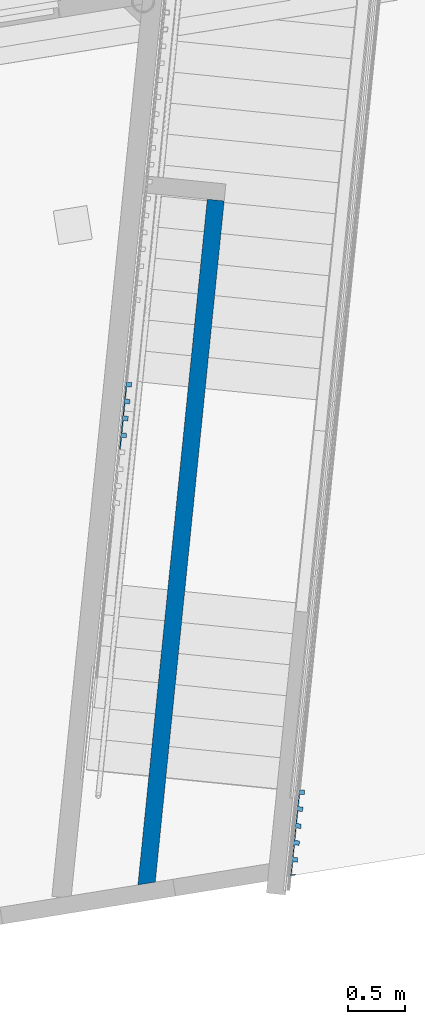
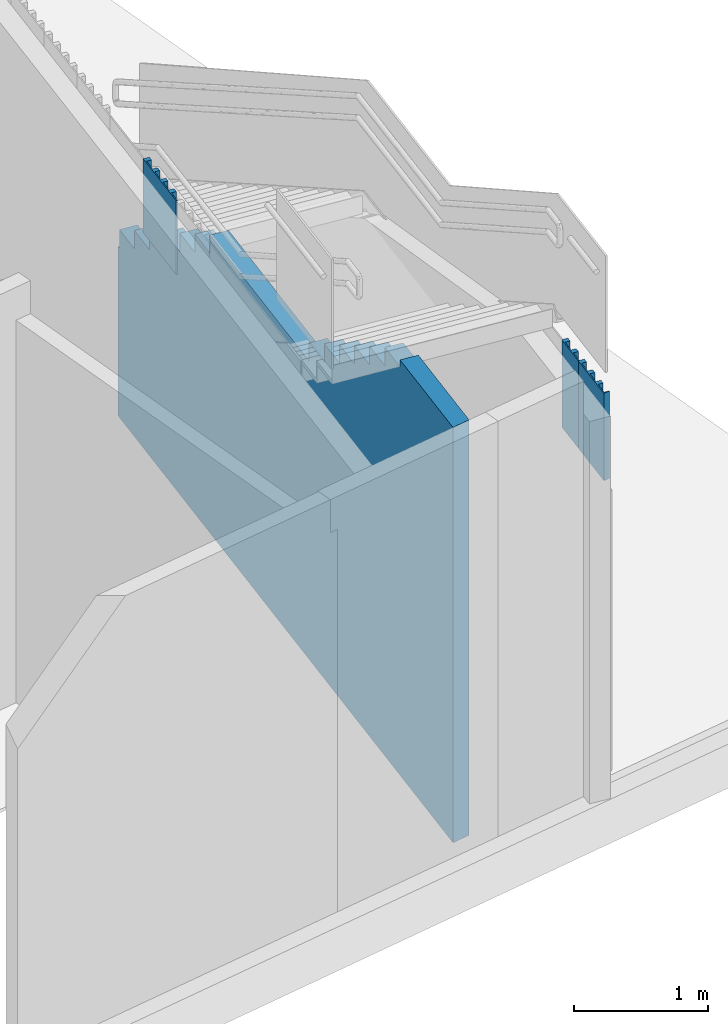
# One storey, part 18 of 23: 3 plates, 1 wall, 2 elements without a shape of their own.
"""IFC2X3 building model written with IfcOpenShell, lengths in millimetres."""

from ifc_helpers import new_model, entity, si_unit, converted_unit, derived_unit, direction, frame, origin, origin_with_axes, place, context, subcontext, project, spatial, faceted_brep, material, layer, layer_set, type_object, element, aggregate, save


model = new_model("IFC2X3")

# Units and contexts
plan_context = context("Plan", 3, precision=1e-05, world=origin_with_axes())
model_context = context("Model", 3, precision=0.01, world=origin(), true_north=direction((6.12323399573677e-17, 1.0)))
body_context = subcontext(model_context, "Body", "Model", "MODEL_VIEW")
ifc_project = project(units=[converted_unit("PLANEANGLEUNIT", "DEGREE", entity("IfcPositiveLengthMeasure", 0.0174532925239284), si_unit("PLANEANGLEUNIT", "RADIAN"), dimensions=[0, 0, 0, 0, 0, 0, 0]), si_unit("AREAUNIT", "SQUARE_METRE"), si_unit("LENGTHUNIT", "METRE", prefix="MILLI"), si_unit("MASSUNIT", "GRAM", prefix="KILO"), si_unit("POWERUNIT", "WATT"), si_unit("PRESSUREUNIT", "PASCAL", prefix="KILO"), si_unit("FORCEUNIT", "NEWTON", prefix="KILO"), si_unit("ELECTRICVOLTAGEUNIT", "VOLT"), si_unit("ELECTRICCURRENTUNIT", "AMPERE"), si_unit("THERMODYNAMICTEMPERATUREUNIT", "DEGREE_CELSIUS"), si_unit("TIMEUNIT", "SECOND"), si_unit("VOLUMEUNIT", "CUBIC_METRE"), derived_unit("LINEARVELOCITYUNIT", [(si_unit("LENGTHUNIT", "METRE"), 1), (si_unit("TIMEUNIT", "SECOND"), -1)]), derived_unit("VOLUMETRICFLOWRATEUNIT", [(si_unit("VOLUMEUNIT", "CUBIC_METRE"), 1), (si_unit("TIMEUNIT", "SECOND"), -1)]), derived_unit("THERMALTRANSMITTANCEUNIT", [(si_unit("POWERUNIT", "WATT"), 1), (si_unit("THERMODYNAMICTEMPERATUREUNIT", "KELVIN"), -1), (si_unit("AREAUNIT", "SQUARE_METRE"), -1)]), derived_unit("SOUNDPRESSUREUNIT", [(si_unit("PRESSUREUNIT", "PASCAL"), 1)])], contexts=[model_context, plan_context])

# Site, building, storey
site_placement = place(None, frame((-0.00071070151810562, 0.00438415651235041, 0.0), z_axis=(0.0, 0.0, 1.0), x_axis=(-0.160236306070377, 0.987078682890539, 0.0)))
site = spatial("IfcSite", under=ifc_project, at=site_placement, Name="Default", CompositionType="ELEMENT")
building_placement = place(site_placement, origin_with_axes())
building = spatial("IfcBuilding", under=site, at=building_placement, Name="TOO", CompositionType="ELEMENT")
storey_placement = place(building_placement, frame((0.0, 0.0, 58999.9999999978), z_axis=(0.0, 0.0, 1.0), x_axis=(1.0, 0.0, 0.0)))
storey = spatial("IfcBuildingStorey", under=building, at=storey_placement, Name="Nivå F", CompositionType="ELEMENT", Elevation=58999.9999999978)

# Curtain wall, plate
curtain_wall_type = type_object("IfcCurtainWallType", Name="Curtain Wall:Curtain Wall Standard (Bruk kun denne)", PredefinedType="NOTDEFINED")
curtain_wall_1_placement = place(storey_placement, frame((0.0, 0.0, -58999.9999999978), z_axis=(0.0, 0.0, 1.0), x_axis=(1.0, 0.0, 0.0)))
curtain_wall_1 = element("IfcCurtainWall", 1, at=curtain_wall_1_placement, inside=storey, type_object=curtain_wall_type, Name="Curtain Wall:Curtain Wall Standard (Bruk kun denne)", ObjectType="Curtain Wall:Curtain Wall Standard (Bruk kun denne)")
ifc_material_1 = material(Name="A200 - Treverk - Eik")
plate_type_1 = type_object("IfcPlateType", Name="A246 - T01 Trespiler-panel 600:A246-T01 Trespiler-panel 600", PredefinedType="CURTAIN_PANEL", material=ifc_material_1)
plate_1_placement = place(curtain_wall_1_placement, frame((767295.491293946, -505744.592438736, 61828.260869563), z_axis=(0.0, 0.0, 1.0), x_axis=(0.965925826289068, -0.258819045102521, 0.0)))
plate_1 = element("IfcPlate", 2, at=plate_1_placement, type_object=plate_type_1, Name="A246 - T01 Trespiler-panel 600:A246-T01 Trespiler-panel 600", ObjectType="A246 - T01 Trespiler-panel 600:A246-T01 Trespiler-panel 600", context=body_context, shape_type="Brep", body=[
    faceted_brep([(-150.0, -50.0, 671.739130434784), (-150.0, -10.0, 671.739130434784), (-150.0, -10.0, 0.0), (-150.0, -50.0, 0.0), (-190.0, -10.0, 671.739130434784), (-190.0, -10.0, 0.0), (-190.0, -50.0, 671.739130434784), (-190.0, -50.0, 0.0)], [[[0, 1, 2, 3]], [[1, 4, 5, 2]], [[4, 6, 7, 5]], [[6, 0, 3, 7]], [[3, 2, 5, 7]], [[6, 4, 1, 0]]], orient=[[False], [False], [False], [False], [False], [False]]),
    faceted_brep([(3.5527136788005e-13, -50.0, 671.739130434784), (3.5527136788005e-13, -10.0, 671.739130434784), (3.5527136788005e-13, -10.0, 0.0), (3.5527136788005e-13, -50.0, 0.0), (-40.0000000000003, -10.0, 671.739130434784), (-40.0000000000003, -10.0, 0.0), (-40.0000000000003, -50.0, 671.739130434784), (-40.0000000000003, -50.0, 0.0)], [[[0, 1, 2, 3]], [[1, 4, 5, 2]], [[4, 6, 7, 5]], [[6, 0, 3, 7]], [[3, 2, 5, 7]], [[6, 4, 1, 0]]], orient=[[False], [False], [False], [False], [False], [False]]),
    faceted_brep([(150.0, -50.0, 671.739130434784), (150.0, -10.0, 671.739130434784), (150.0, -10.0, 0.0), (150.0, -50.0, 0.0), (110.0, -10.0, 671.739130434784), (110.0, -10.0, 0.0), (110.0, -50.0, 671.739130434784), (110.0, -50.0, 0.0)], [[[0, 1, 2, 3]], [[1, 4, 5, 2]], [[4, 6, 7, 5]], [[6, 0, 3, 7]], [[3, 2, 5, 7]], [[6, 4, 1, 0]]], orient=[[False], [False], [False], [False], [False], [False]]),
    faceted_brep([(300.0, -50.0, 671.739130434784), (300.0, -10.0, 671.739130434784), (300.0, -10.0, 0.0), (300.0, -50.0, 0.0), (260.0, -10.0, 671.739130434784), (260.0, -10.0, 0.0), (260.0, -50.0, 671.739130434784), (260.0, -50.0, 0.0)], [[[0, 1, 2, 3]], [[1, 4, 5, 2]], [[4, 6, 7, 5]], [[6, 0, 3, 7]], [[3, 2, 5, 7]], [[6, 4, 1, 0]]], orient=[[False], [False], [False], [False], [False], [False]]),
    faceted_brep([(299.999999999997, -10.0, 671.739130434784), (299.999999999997, 0.0, 671.739130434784), (299.999999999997, 0.0, 0.0), (299.999999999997, -10.0, 0.0), (-299.999999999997, 0.0, 671.739130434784), (-299.999999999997, 0.0, 0.0), (-299.999999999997, -10.0, 671.739130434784), (-299.999999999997, -10.0, 0.0)], [[[0, 1, 2, 3]], [[1, 4, 5, 2]], [[4, 6, 7, 5]], [[6, 0, 3, 7]], [[3, 2, 5, 7]], [[6, 4, 1, 0]]], orient=[[False], [False], [False], [False], [False], [False]]),
])
aggregate(curtain_wall_1, [plate_1])

# Curtain wall, plates
curtain_wall_2_placement = place(storey_placement, frame((0.0, 0.0, -58999.9999999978), z_axis=(0.0, 0.0, 1.0), x_axis=(1.0, 0.0, 0.0)))
curtain_wall_2 = element("IfcCurtainWall", 3, at=curtain_wall_2_placement, inside=storey, type_object=curtain_wall_type, Name="Curtain Wall:Curtain Wall Standard (Bruk kun denne)", ObjectType="Curtain Wall:Curtain Wall Standard (Bruk kun denne)")
plate_type_2 = type_object("IfcPlateType", Name="A246 - T01 Trespiler-panel 600:A246-T01 Trespiler-panel 600", PredefinedType="CURTAIN_PANEL", material=ifc_material_1)
plate_2_placement = place(curtain_wall_2_placement, frame((763210.86318217, -506596.594438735, 61704.9999999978), z_axis=(0.0, 0.0, 1.0), x_axis=(0.965925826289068, -0.258819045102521, 0.0)))
plate_2 = element("IfcPlate", 4, at=plate_2_placement, type_object=plate_type_2, Name="A246 - T01 Trespiler-panel 600:A246-T01 Trespiler-panel 600", ObjectType="A246 - T01 Trespiler-panel 600:A246-T01 Trespiler-panel 600", context=body_context, shape_type="Brep", body=[
    faceted_brep([(-150.000000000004, -50.0, 795.000000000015), (-150.000000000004, -10.0, 795.000000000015), (-150.000000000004, -10.0, 0.0), (-150.000000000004, -50.0, 0.0), (-163.734464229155, -10.0000000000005, 795.000000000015), (-163.734464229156, -10.0, 0.0), (-153.016496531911, -50.0, 0.0), (-153.01649653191, -50.0, 795.000000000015)], [[[0, 1, 2, 3]], [[1, 4, 5, 2]], [[6, 7, 0, 3]], [[5, 6, 3, 2]], [[7, 6, 5, 4]], [[4, 1, 0, 7]]], orient=[[False], [False], [False], [False], [False], [False]]),
    faceted_brep([(-4.30944169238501e-12, -50.0, 795.000000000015), (-4.30944169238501e-12, -10.0, 795.000000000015), (-4.30944169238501e-12, -10.0, 0.0), (-4.30944169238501e-12, -50.0, 0.0), (-39.9999999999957, -10.0, 795.000000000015), (-39.9999999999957, -10.0, 0.0), (-39.9999999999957, -50.0, 795.000000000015), (-39.9999999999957, -50.0, 0.0)], [[[0, 1, 2, 3]], [[1, 4, 5, 2]], [[4, 6, 7, 5]], [[6, 0, 3, 7]], [[3, 2, 5, 7]], [[6, 4, 1, 0]]], orient=[[False], [False], [False], [False], [False], [False]]),
    faceted_brep([(149.999999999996, -50.0, 795.000000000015), (149.999999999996, -10.0, 795.000000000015), (149.999999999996, -10.0, 0.0), (149.999999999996, -50.0, 0.0), (110.000000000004, -10.0, 795.000000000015), (110.000000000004, -10.0, 0.0), (110.000000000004, -50.0, 795.000000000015), (110.000000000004, -50.0, 0.0)], [[[0, 1, 2, 3]], [[1, 4, 5, 2]], [[4, 6, 7, 5]], [[6, 0, 3, 7]], [[3, 2, 5, 7]], [[6, 4, 1, 0]]], orient=[[False], [False], [False], [False], [False], [False]]),
    faceted_brep([(299.999999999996, -50.0, 795.000000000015), (299.999999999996, -10.0, 795.000000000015), (299.999999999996, -10.0, 0.0), (299.999999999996, -50.0, 0.0), (260.000000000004, -10.0, 795.000000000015), (260.000000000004, -10.0, 0.0), (260.000000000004, -50.0, 795.000000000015), (260.000000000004, -50.0, 0.0)], [[[0, 1, 2, 3]], [[1, 4, 5, 2]], [[4, 6, 7, 5]], [[6, 0, 3, 7]], [[3, 2, 5, 7]], [[6, 4, 1, 0]]], orient=[[False], [False], [False], [False], [False], [False]]),
    faceted_brep([(300.000000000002, -10.0, 795.000000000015), (300.000000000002, 0.0, 795.000000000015), (300.000000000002, 0.0, 0.0), (300.000000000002, -10.0, 0.0), (-166.413956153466, 4.54747350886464e-13, 795.000000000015), (-166.413956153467, 0.0, 0.0), (-163.734464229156, -10.0, 0.0), (-163.734464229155, -10.0000000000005, 795.000000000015)], [[[0, 1, 2, 3]], [[1, 4, 5, 2]], [[6, 7, 0, 3]], [[5, 6, 3, 2]], [[7, 6, 5, 4]], [[4, 1, 0, 7]]], orient=[[False], [False], [False], [False], [False], [False]]),
])
plate_type_3 = type_object("IfcPlateType", Name="A246 - T01 Trespiler-panel 600:A246-T01 Trespiler-panel 600", PredefinedType="CURTAIN_PANEL", material=ifc_material_1)
plate_3_placement = place(curtain_wall_2_placement, frame((763645.529804, -506713.063009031, 61704.9999999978), z_axis=(0.0, 0.0, 1.0), x_axis=(0.965925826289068, -0.258819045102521, 0.0)))
plate_3 = element("IfcPlate", 5, at=plate_3_placement, type_object=plate_type_3, Name="A246 - T01 Trespiler-panel 600:A246-T01 Trespiler-panel 600", ObjectType="A246 - T01 Trespiler-panel 600:A246-T01 Trespiler-panel 600", context=body_context, shape_type="Brep", body=[
    faceted_brep([(-4.30944169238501e-12, -50.0, 795.000000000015), (-4.30944169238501e-12, -10.0, 795.000000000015), (-4.30944169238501e-12, -10.0, 0.0), (-4.30944169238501e-12, -50.0, 0.0), (-39.9999999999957, -10.0, 795.000000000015), (-39.9999999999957, -10.0, 0.0), (-39.9999999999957, -50.0, 795.000000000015), (-39.9999999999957, -50.0, 0.0)], [[[0, 1, 2, 3]], [[1, 4, 5, 2]], [[4, 6, 7, 5]], [[6, 0, 3, 7]], [[3, 2, 5, 7]], [[6, 4, 1, 0]]], orient=[[False], [False], [False], [False], [False], [False]]),
    faceted_brep([(-4.30944169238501e-12, -50.0, 795.000000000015), (-4.30944169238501e-12, -10.0, 795.000000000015), (-4.30944169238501e-12, -10.0, 0.0), (-4.30944169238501e-12, -50.0, 0.0), (-39.9999999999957, -10.0, 795.000000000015), (-39.9999999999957, -10.0, 0.0), (-39.9999999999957, -50.0, 795.000000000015), (-39.9999999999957, -50.0, 0.0)], [[[0, 1, 2, 3]], [[1, 4, 5, 2]], [[4, 6, 7, 5]], [[6, 0, 3, 7]], [[3, 2, 5, 7]], [[6, 4, 1, 0]]], orient=[[False], [False], [False], [False], [False], [False]]),
    faceted_brep([(149.999999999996, -50.0, 795.000000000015), (149.999999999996, -10.0, 795.000000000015), (149.999999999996, -10.0, 0.0), (149.999999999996, -50.0, 0.0), (110.000000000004, -10.0, 795.000000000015), (110.000000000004, -10.0, 0.0), (110.000000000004, -50.0, 795.000000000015), (110.000000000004, -50.0, 0.0)], [[[0, 1, 2, 3]], [[1, 4, 5, 2]], [[4, 6, 7, 5]], [[6, 0, 3, 7]], [[3, 2, 5, 7]], [[6, 4, 1, 0]]], orient=[[False], [False], [False], [False], [False], [False]]),
    faceted_brep([(149.999999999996, -50.0, 795.000000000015), (149.999999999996, -10.0, 795.000000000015), (149.999999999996, -10.0, 0.0), (149.999999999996, -50.0, 0.0), (110.000000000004, -10.0, 795.000000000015), (110.000000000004, -10.0, 0.0), (110.000000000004, -50.0, 795.000000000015), (110.000000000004, -50.0, 0.0)], [[[0, 1, 2, 3]], [[1, 4, 5, 2]], [[4, 6, 7, 5]], [[6, 0, 3, 7]], [[3, 2, 5, 7]], [[6, 4, 1, 0]]], orient=[[False], [False], [False], [False], [False], [False]]),
    faceted_brep([(150.000000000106, -10.0, 795.000000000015), (150.000000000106, 0.0, 795.000000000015), (150.000000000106, 0.0, 0.0), (150.000000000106, -10.0, 0.0), (-150.000000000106, 0.0, 795.000000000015), (-150.000000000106, 0.0, 0.0), (-150.000000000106, -10.0, 795.000000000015), (-150.000000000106, -10.0, 0.0)], [[[0, 1, 2, 3]], [[1, 4, 5, 2]], [[4, 6, 7, 5]], [[6, 0, 3, 7]], [[3, 2, 5, 7]], [[6, 4, 1, 0]]], orient=[[False], [False], [False], [False], [False], [False]]),
])
aggregate(curtain_wall_2, [plate_2, plate_3])

# Wall
ifc_material_2 = material(Name="A240 - Gipsplate")
ifc_layer_1 = layer(ifc_material_2, 12.5)
ifc_layer_2 = layer(ifc_material_2, 12.5)
ifc_material_3 = material(Name="A200 - Isolasjon - Rock Wool")
ifc_layer_3 = layer(ifc_material_3, 100.0)
ifc_layer_4 = layer(ifc_material_2, 12.5)
ifc_layer_5 = layer(ifc_material_2, 12.5)
ifc_layer_set = layer_set([ifc_layer_1, ifc_layer_2, ifc_layer_3, ifc_layer_4, ifc_layer_5], Name="Basic Wall:A242 - GG100/100GG")
wall_type = type_object("IfcWallType", Name="Basic Wall:A242 - GG100/100GG", PredefinedType="STANDARD", material=ifc_layer_set)
wall_placement = place(storey_placement, frame((763168.208215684, -505285.737883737, -70.0), z_axis=(0.0, 0.0, 1.0), x_axis=(0.965925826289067, -0.258819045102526, 0.0)))
element("IfcWall", 6, at=wall_placement, inside=storey, type_object=wall_type, Name="Basic Wall:A242 - GG100/100GG", ObjectType="Basic Wall:A242 - GG100/100GG", context=body_context, shape_type="Brep", body=[
    faceted_brep([(40.1923788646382, -75.0, 0.0), (6082.07015720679, -75.0, 0.0), (6082.07015720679, -75.0, 1290.0), (6082.07015720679, -75.0, 1541.52173913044), (6063.03883483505, -75.0, 1541.52173913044), (6063.03883483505, -75.0, 1708.91304347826), (5788.03883483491, -75.0, 1708.91304347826), (5788.03883483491, -75.0, 1876.30434782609), (5513.03883483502, -75.0, 1876.30434782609), (5513.03883483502, -75.0, 2043.69565217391), (5238.03883483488, -75.0, 2043.69565217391), (5238.03883483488, -75.0, 2211.08695652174), (4963.03883483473, -75.0, 2211.08695652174), (4963.03883483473, -75.0, 2378.47826086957), (4688.0388348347, -75.0, 2378.47826086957), (4688.0388348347, -75.0, 2545.8695652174), (4413.03883483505, -75.0, 2545.8695652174), (4413.03883483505, -75.0, 2713.26086956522), (2613.0388348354, -75.0, 2713.26086956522), (2613.0388348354, -75.0, 2880.65217391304), (2338.03883483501, -75.0, 2880.65217391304), (2338.03883483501, -75.0, 3048.04347826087), (2063.03883483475, -75.0, 3048.04347826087), (2063.03883483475, -75.0, 3215.4347826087), (1788.03883483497, -75.0, 3215.4347826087), (1788.03883483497, -75.0, 3382.82608695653), (1513.03883483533, -75.0, 3382.82608695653), (1513.03883483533, -75.0, 3550.21739130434), (1238.03883483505, -75.0, 3550.21739130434), (1238.03883483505, -75.0, 3717.60869565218), (963.038834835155, -75.0, 3717.60869565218), (963.038834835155, -75.0, 3780.0), (40.1923788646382, -75.0, 3780.0), (6082.07015720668, 75.0, 0.0), (0.0, 75.0, 0.0), (0.0, 75.0, 3780.0), (963.038834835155, 75.0, 3780.0), (963.038834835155, 75.0, 3717.60869565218), (1238.03883483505, 75.0, 3717.60869565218), (1238.03883483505, 75.0, 3550.21739130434), (1513.03883483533, 75.0, 3550.21739130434), (1513.03883483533, 75.0, 3382.82608695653), (1788.03883483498, 75.0, 3382.82608695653), (1788.03883483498, 75.0, 3215.4347826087), (2063.03883483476, 75.0, 3215.4347826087), (2063.03883483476, 75.0, 3048.04347826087), (2338.03883483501, 75.0, 3048.04347826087), (2338.03883483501, 75.0, 2880.65217391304), (2613.03883483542, 75.0, 2880.65217391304), (2613.03883483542, 75.0, 2713.26086956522), (4413.03883483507, 75.0, 2713.26086956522), (4413.03883483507, 75.0, 2545.8695652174), (4688.0388348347, 75.0, 2545.8695652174), (4688.0388348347, 75.0, 2378.47826086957), (4963.03883483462, 75.0, 2378.47826086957), (4963.03883483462, 75.0, 2211.08695652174), (5238.03883483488, 75.0, 2211.08695652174), (5238.03883483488, 75.0, 2043.69565217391), (5513.03883483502, 75.0, 2043.69565217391), (5513.03883483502, 75.0, 1876.30434782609), (5788.03883483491, 75.0, 1876.30434782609), (5788.03883483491, 75.0, 1708.91304347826), (6063.03883483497, 75.0, 1708.91304347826), (6063.03883483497, 75.0, 1541.52173913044), (6082.07015720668, 75.0, 1541.52173913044), (6082.07015720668, 75.0, 1290.0)], [[[0, 1, 2, 3, 4, 5, 6, 7, 8, 9, 10, 11, 12, 13, 14, 15, 16, 17, 18, 19, 20, 21, 22, 23, 24, 25, 26, 27, 28, 29, 30, 31, 32]], [[33, 34, 35, 36, 37, 38, 39, 40, 41, 42, 43, 44, 45, 46, 47, 48, 49, 50, 51, 52, 53, 54, 55, 56, 57, 58, 59, 60, 61, 62, 63, 64, 65]], [[0, 32, 35, 34]], [[1, 33, 65, 64, 3, 2]], [[1, 0, 34, 33]], [[18, 17, 50, 49]], [[4, 3, 64, 63]], [[5, 4, 63, 62]], [[6, 5, 62, 61]], [[7, 6, 61, 60]], [[8, 7, 60, 59]], [[9, 8, 59, 58]], [[10, 9, 58, 57]], [[11, 10, 57, 56]], [[12, 11, 56, 55]], [[13, 12, 55, 54]], [[14, 13, 54, 53]], [[15, 14, 53, 52]], [[16, 15, 52, 51]], [[17, 16, 51, 50]], [[19, 18, 49, 48]], [[20, 19, 48, 47]], [[21, 20, 47, 46]], [[22, 21, 46, 45]], [[23, 22, 45, 44]], [[24, 23, 44, 43]], [[25, 24, 43, 42]], [[26, 25, 42, 41]], [[27, 26, 41, 40]], [[28, 27, 40, 39]], [[29, 28, 39, 38]], [[30, 29, 38, 37]], [[31, 30, 37, 36]], [[32, 31, 36, 35]]]),
])

save(model, "model.ifc")
